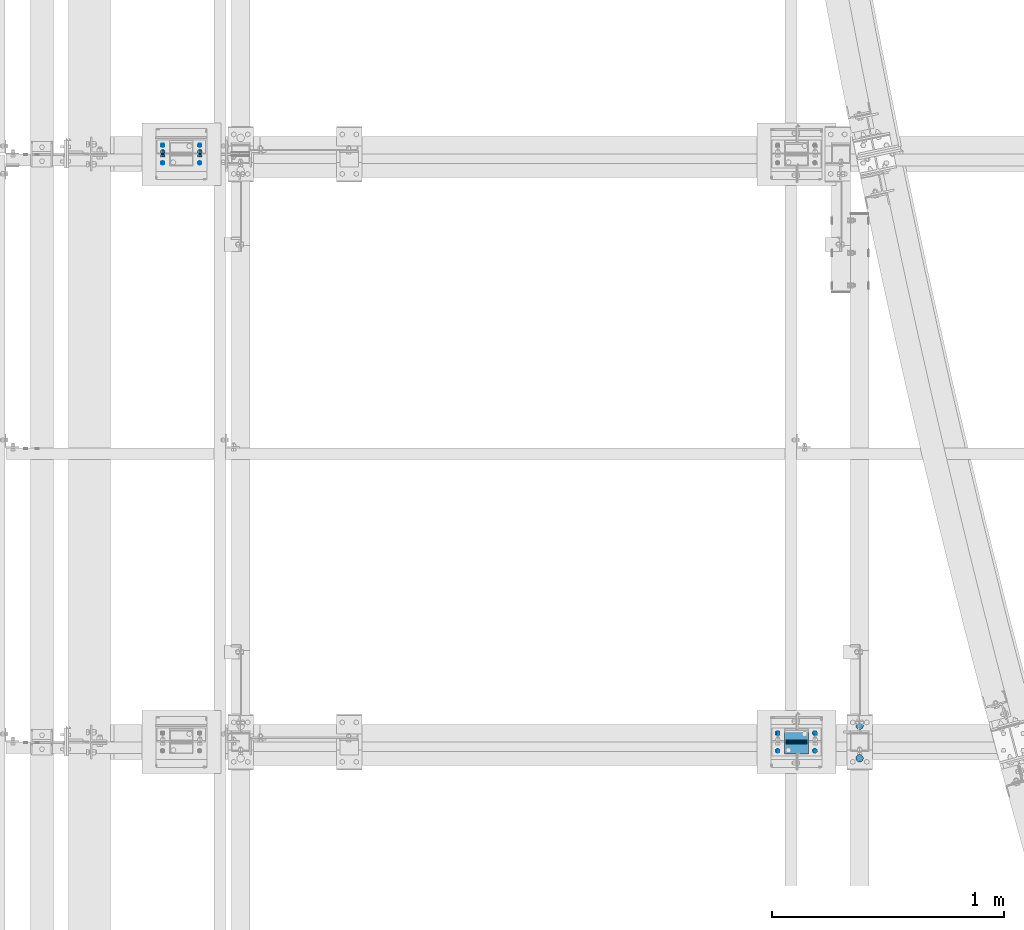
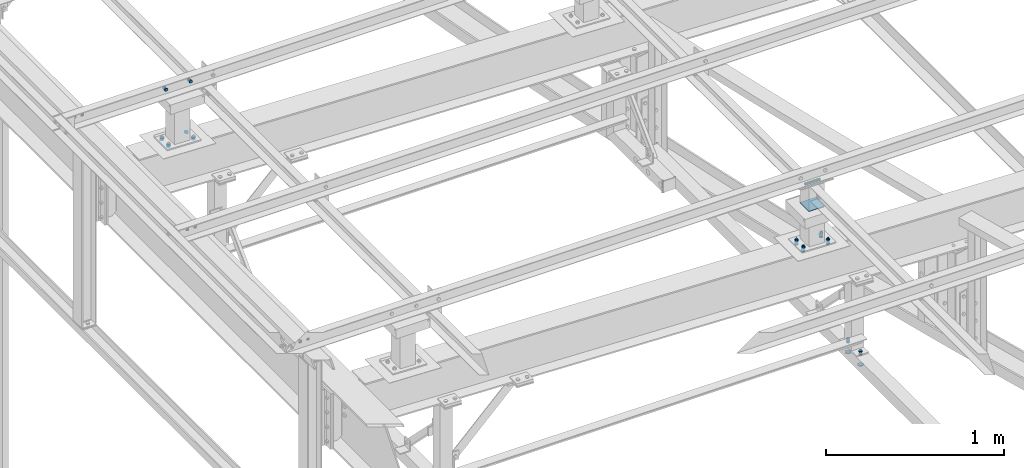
# One storey, part 62 of 3134: 8 mechanical fasteners, 5 elements without a shape of their own.
"""IFC2X3 building model written with IfcOpenShell, lengths in millimetres."""

import ifcopenshell
import ifcopenshell.guid

model = None  # the IFC model being written
_history = None  # IfcOwnerHistory: only IFC2X3 demands one
_inside = {}  # id of a spatial element -> (the spatial element, [elements in it])
_under = {}  # id of a project, library or spatial element -> (it, [spatial elements below it])
_declared = {}  # id of a project -> (the project, [libraries it declares])
_typed = {}  # id of a type object -> (the type object, [elements of that type])
_made_of = {}  # id of a material, layer set ... -> (it, [elements and type objects made of it])


def new_model(schema):
    """Start an empty IFC model of exactly this schema.

    Asked for "IFC4X3", IfcOpenShell would pick the latest addendum, in which some entities
    have other attributes; the version numbers below select the first issue.
    IFC2X3 requires an IfcOwnerHistory on every rooted entity: one is made here for all.
    """
    global model, _history
    if schema == "IFC4X3":
        model = ifcopenshell.file(schema_version=(4, 3, 0, 0))
    else:
        model = ifcopenshell.file(schema=schema)
    _inside.clear()
    _under.clear()
    _declared.clear()
    _typed.clear()
    _made_of.clear()
    _history = None
    if model.schema == "IFC2X3":
        org = make("IfcOrganization", Name="unknown")
        user = make(
            "IfcPersonAndOrganization",
            ThePerson=make("IfcPerson", FamilyName="unknown"),
            TheOrganization=org,
        )
        app = make(
            "IfcApplication",
            ApplicationDeveloper=org,
            Version="unknown",
            ApplicationFullName="unknown",
            ApplicationIdentifier="unknown",
        )
        _history = make(
            "IfcOwnerHistory",
            OwningUser=user,
            OwningApplication=app,
            ChangeAction="ADDED",
            CreationDate=0,
        )
    return model


def make(cls, **values):
    """One entity of the class cls with the attributes given. An attribute that is None is left unset."""
    return model.create_entity(
        cls, **{name: value for name, value in values.items() if value is not None}
    )


def rooted(cls, **values):
    """An entity with a GlobalId (a new one), such as an element, a storey or a relation."""
    return make(cls, GlobalId=ifcopenshell.guid.new(), OwnerHistory=_history, **values)


def si_unit(unit_type, name, prefix=None):
    """IfcSIUnit, for example si_unit("LENGTHUNIT", "METRE", prefix="MILLI")."""
    return make("IfcSIUnit", UnitType=unit_type, Prefix=prefix, Name=name)


def assignment(units):
    """IfcUnitAssignment: the units of a project."""
    return None if units is None else make("IfcUnitAssignment", Units=units)


def point(xyz):
    """IfcCartesianPoint."""
    return None if xyz is None else make("IfcCartesianPoint", Coordinates=xyz)


def direction(xyz):
    """IfcDirection."""
    return None if xyz is None else make("IfcDirection", DirectionRatios=xyz)


def frame(location, z_axis=None, x_axis=None):
    """IfcAxis2Placement3D, a coordinate frame: its origin and axes. An axis left out is left unset."""
    return make(
        "IfcAxis2Placement3D",
        Location=point(location),
        Axis=direction(z_axis),
        RefDirection=direction(x_axis),
    )


def origin_with_axes():
    """The frame at (0, 0, 0) with the z axis (0, 0, 1) and the x axis (1, 0, 0) written out."""
    return frame((0.0, 0.0, 0.0), z_axis=(0.0, 0.0, 1.0), x_axis=(1.0, 0.0, 0.0))


def place(relative_to, where):
    """IfcLocalPlacement: puts the frame where relative to a parent placement (None: the world)."""
    return make(
        "IfcLocalPlacement", PlacementRelTo=relative_to, RelativePlacement=where
    )


def context(
    kind, dimensions, precision=None, world=None, true_north=None, identifier=None
):
    """IfcGeometricRepresentationContext, for example the 3D "Model" context."""
    return make(
        "IfcGeometricRepresentationContext",
        ContextIdentifier=identifier,
        ContextType=kind,
        CoordinateSpaceDimension=dimensions,
        Precision=precision,
        WorldCoordinateSystem=world,
        TrueNorth=true_north,
    )


def subcontext(parent, identifier, kind, view, scale=None):
    """IfcGeometricRepresentationSubContext, for example "Body" below "Model"."""
    return make(
        "IfcGeometricRepresentationSubContext",
        ContextIdentifier=identifier,
        ContextType=kind,
        ParentContext=parent,
        TargetScale=scale,
        TargetView=view,
    )


def project(units=None, contexts=None):
    """IfcProject with its units and contexts."""
    return rooted(
        "IfcProject",
        Name="project",
        RepresentationContexts=contexts,
        UnitsInContext=assignment(units),
    )


def spatial(cls, under=None, at=None, **own):
    """A site, building, storey or space (cls), placed at a placement, below another one or the project."""
    s = rooted(cls, ObjectPlacement=at, **own)
    if under is not None:
        _under.setdefault(under.id(), (under, []))[1].append(s)
    return s


def faces_of(points, faces, orient=None, outer=None):
    """IfcFace entities. A face is a list of loops; a loop is a list of indices into points, from 0.

    orient and outer hold one flag for each loop. By default every Orientation is true, the
    first loop of a face is its IfcFaceOuterBound and the others are IfcFaceBound.
    """
    made = []
    for i, loops in enumerate(faces):
        bounds = []
        for j, loop in enumerate(loops):
            is_outer = j == 0 if outer is None else outer[i][j]
            bounds.append(
                make(
                    "IfcFaceOuterBound" if is_outer else "IfcFaceBound",
                    Bound=make("IfcPolyLoop", Polygon=[points[k] for k in loop]),
                    Orientation=True if orient is None else orient[i][j],
                )
            )
        made.append(make("IfcFace", Bounds=bounds))
    return made


def faceted_brep(points, faces, orient=None, outer=None, voids=None):
    """IfcFacetedBrep: a solid bounded by flat faces; with voids (closed shells), ...WithVoids."""
    shared = [point(p) for p in points]
    hull = make("IfcClosedShell", CfsFaces=faces_of(shared, faces, orient, outer))
    if voids is None:
        return make("IfcFacetedBrep", Outer=hull)
    return make(
        "IfcFacetedBrepWithVoids",
        Outer=hull,
        Voids=[
            make(cls, CfsFaces=faces_of(shared, fs, o, b)) for cls, fs, o, b in voids
        ],
    )


def shape(context_of_items, identifier, shape_type, items):
    """IfcShapeRepresentation: the items that make up one representation, for example the "Body"."""
    return make(
        "IfcShapeRepresentation",
        ContextOfItems=context_of_items,
        RepresentationIdentifier=identifier,
        RepresentationType=shape_type,
        Items=items,
    )


def source(mapping_origin, context_of_items, identifier, shape_type, items):
    """IfcRepresentationMap: a shape defined once, which mapped items show again and again."""
    return make(
        "IfcRepresentationMap",
        MappingOrigin=mapping_origin,
        MappedRepresentation=shape(context_of_items, identifier, shape_type, items),
    )


def transform(
    local_origin,
    x_axis=None,
    y_axis=None,
    z_axis=None,
    scale=None,
    scale2=None,
    scale3=None,
    uniform=True,
):
    """IfcCartesianTransformationOperator3D, or its non-uniform kind. x_axis, y_axis, z_axis: its Axis1, 2, 3."""
    if uniform:
        return make(
            "IfcCartesianTransformationOperator3D",
            Axis1=direction(x_axis),
            Axis2=direction(y_axis),
            LocalOrigin=point(local_origin),
            Scale=scale,
            Axis3=direction(z_axis),
        )
    return make(
        "IfcCartesianTransformationOperator3DnonUniform",
        Axis1=direction(x_axis),
        Axis2=direction(y_axis),
        LocalOrigin=point(local_origin),
        Scale=scale,
        Axis3=direction(z_axis),
        Scale2=scale2,
        Scale3=scale3,
    )


def mapped(mapping_source, mapping_target):
    """IfcMappedItem: shows the shape of a source again, moved by a transform."""
    return make(
        "IfcMappedItem", MappingSource=mapping_source, MappingTarget=mapping_target
    )


def material(Name=None, Category=None):
    """IfcMaterial."""
    return make("IfcMaterial", Name=Name, Category=Category)


def made_of(thing, what):
    """Note that an element or type object is made of a material, layer set ...; save() writes the relation."""
    if what is not None:
        _made_of.setdefault(what.id(), (what, []))[1].append(thing)
    return thing


def type_object(cls, material=None, **own):
    """A type object (cls), such as IfcWallType, which elements share."""
    return made_of(rooted(cls, **own), material)


def element(
    cls,
    number,
    at=None,
    inside=None,
    cuts=None,
    type_object=None,
    material=None,
    context=None,
    identifier="Body",
    shape_type=None,
    held_by="IfcProductDefinitionShape",
    body=None,
    shapes=None,
    **own,
):
    """One element of the class cls, such as IfcWall. Its Tag is "e" and its number.

    at: its placement. inside: the storey or other place that contains it. cuts: it is an
    opening in that element (IfcRelVoidsElement). A single representation is given by context,
    identifier, shape_type and body (its items); several are given by shapes. held_by: the class
    of the entity that holds the representations. save() writes the other relations.
    """
    e = rooted(cls, Tag="e%d" % number, ObjectPlacement=at, **own)
    if body is not None:
        shapes = [shape(context, identifier, shape_type, body)]
    if shapes is not None:
        e.Representation = make(held_by, Representations=shapes)
    if inside is not None:
        _inside.setdefault(inside.id(), (inside, []))[1].append(e)
    if cuts is not None:
        rooted(
            "IfcRelVoidsElement", RelatingBuildingElement=cuts, RelatedOpeningElement=e
        )
    if type_object is not None:
        _typed.setdefault(type_object.id(), (type_object, []))[1].append(e)
    return made_of(e, material)


def aggregate(whole, parts):
    """IfcRelAggregates: a whole, such as a stair, and the parts it consists of."""
    return rooted("IfcRelAggregates", RelatingObject=whole, RelatedObjects=parts)


def save(model, path):
    """Write the relations noted so far, then the file.

    IfcRelAggregates (storeys below a building ...), IfcRelContainedInSpatialStructure (elements
    in a storey), IfcRelDefinesByType, IfcRelAssociatesMaterial and IfcRelDeclares: one each for
    every whole, place, type object, material and project.
    """
    for whole, parts in _under.values():
        aggregate(whole, parts)
    for where, things in _inside.values():
        rooted(
            "IfcRelContainedInSpatialStructure",
            RelatedElements=things,
            RelatingStructure=where,
        )
    for kind, things in _typed.values():
        rooted("IfcRelDefinesByType", RelatedObjects=things, RelatingType=kind)
    for what, things in _made_of.values():
        rooted("IfcRelAssociatesMaterial", RelatedObjects=things, RelatingMaterial=what)
    for by, libraries in _declared.values():
        rooted("IfcRelDeclares", RelatingContext=by, RelatedDefinitions=libraries)
    model.write(path)


model = new_model("IFC2X3")

# Units and contexts
model_context = context("Model", 3, precision=1e-05, world=origin_with_axes())
body_context = subcontext(model_context, "Body", "Model", "MODEL_VIEW")
ifc_project = project(units=[si_unit("LENGTHUNIT", "METRE", prefix="MILLI"), si_unit("AREAUNIT", "SQUARE_METRE"), si_unit("VOLUMEUNIT", "CUBIC_METRE"), si_unit("MASSUNIT", "GRAM", prefix="KILO"), si_unit("TIMEUNIT", "SECOND"), si_unit("PLANEANGLEUNIT", "RADIAN"), si_unit("SOLIDANGLEUNIT", "STERADIAN"), si_unit("THERMODYNAMICTEMPERATUREUNIT", "DEGREE_CELSIUS"), si_unit("LUMINOUSINTENSITYUNIT", "LUMEN")], contexts=[model_context])

# Site, building, storey
site_placement = place(None, origin_with_axes())
site = spatial("IfcSite", under=ifc_project, at=site_placement, CompositionType="ELEMENT")
building_placement = place(site_placement, origin_with_axes())
building = spatial("IfcBuilding", under=site, at=building_placement, Name="Undefined", CompositionType="ELEMENT")
storey_placement = place(building_placement, origin_with_axes())
storey = spatial("IfcBuildingStorey", under=building, at=storey_placement, Name="Undefined", CompositionType="ELEMENT", Elevation=0.0)

# Assembly, mechanical fasteners
assembly_1_placement = place(storey_placement, origin_with_axes())
assembly_1 = element("IfcElementAssembly", 1, at=assembly_1_placement, inside=storey, AssemblyPlace="NOTDEFINED", PredefinedType="RIGID_FRAME")
ifc_material_1 = material(Name="8.8")
mechanical_fastener_type = type_object("IfcMechanicalFastenerType", Name="Bolt assembly")
shared_shape_1 = source(origin_with_axes(), body_context, "Body", "Brep", [
    faceted_brep([(16.5, -3.0, 0.0), (14.289419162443, -3.0, 8.25000000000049), (8.24999999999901, -3.0, 14.2894191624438), (-1.70995436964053e-12, -3.0, 16.5), (-8.25000000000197, -3.0, 14.2894191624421), (-14.2894191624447, -3.0, 8.24999999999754), (-16.5, -3.0, -3.41990873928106e-12), (-14.2894191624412, -3.0, -8.25000000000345), (-8.24999999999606, -3.0, -14.2894191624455), (5.11154442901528e-12, -3.0, -16.5), (8.25000000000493, -3.0, -14.2894191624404), (14.2894191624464, -3.0, -8.24999999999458), (14.2894191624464, 0.1, -8.24999999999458), (8.25000000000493, 0.1, -14.2894191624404), (5.11154442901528e-12, 0.1, -16.5), (-8.24999999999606, 0.1, -14.2894191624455), (-14.2894191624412, 0.1, -8.25000000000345), (-16.5, 0.1, -3.41990873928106e-12), (-14.2894191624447, 0.1, 8.24999999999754), (-8.25000000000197, 0.1, 14.2894191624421), (-1.70995436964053e-12, 0.1, 16.5), (8.24999999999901, 0.1, 14.2894191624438), (14.289419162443, 0.1, 8.25000000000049), (16.5, 0.1, 0.0)], [[[0, 1, 2, 3, 4, 5, 6, 7, 8, 9, 10, 11]], [[12, 13, 14, 15, 16, 17, 18, 19, 20, 21, 22, 23]], [[0, 23, 22, 1]], [[1, 22, 21, 2]], [[2, 21, 20, 3]], [[3, 20, 19, 4]], [[4, 19, 18, 5]], [[5, 18, 17, 6]], [[6, 17, 16, 7]], [[7, 16, 15, 8]], [[8, 15, 14, 9]], [[9, 14, 13, 10]], [[10, 13, 12, 11]], [[11, 12, 23, 0]]]),
])
mechanical_fastener_1_placement = place(assembly_1_placement, frame((3315.0, 22051.25, 3040.0), z_axis=(1.0, 0.0, 0.0), x_axis=(0.0, -1.0, 0.0)))
mechanical_fastener_1 = element("IfcMechanicalFastener", 2, at=mechanical_fastener_1_placement, type_object=mechanical_fastener_type, material=ifc_material_1, Name="Bolt assembly", NominalDiameter=30.0, NominalLength=3.0, context=body_context, shape_type="MappedRepresentation", body=[
    mapped(shared_shape_1, transform((0.0, 0.0, 0.0))),
    mapped(shared_shape_1, transform((140.0, 0.0, 0.0))),
])
shared_shape_2 = source(origin_with_axes(), body_context, "Body", "Brep", [
    faceted_brep([(10.9696551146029, -16.0, 0.0), (5.48482755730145, -16.0, 9.5), (-5.48482755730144, -16.0, 9.5), (-10.9696551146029, -16.0, 1.34339530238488e-15), (-5.48482755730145, -16.0, -9.5), (5.48482755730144, -16.0, -9.50000000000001), (5.48482755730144, -8.0, -9.50000000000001), (-5.48482755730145, -8.0, -9.5), (-10.9696551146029, -8.0, 1.34339530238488e-15), (-5.48482755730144, -8.0, 9.5), (5.48482755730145, -8.0, 9.5), (10.9696551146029, -8.0, 0.0), (6.0, -8.0, 0.0), (5.19615242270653, -8.0, 3.00000000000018), (2.99999999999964, -8.0, 5.19615242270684), (-6.21801588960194e-13, -8.0, 6.0), (-3.00000000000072, -8.0, 5.19615242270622), (-5.19615242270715, -8.0, 2.9999999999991), (-6.0, -8.0, -1.24360317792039e-12), (-5.19615242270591, -8.0, -3.00000000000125), (-2.99999999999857, -8.0, -5.19615242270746), (1.85874342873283e-12, -8.0, -6.0), (3.00000000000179, -8.0, -5.1961524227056), (5.19615242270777, -8.0, -2.99999999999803), (5.19615242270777, 17.0, -2.99999999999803), (3.00000000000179, 17.0, -5.1961524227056), (1.85874342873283e-12, 17.0, -6.0), (-2.99999999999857, 17.0, -5.19615242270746), (-5.19615242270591, 17.0, -3.00000000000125), (-6.0, 17.0, -1.24360317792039e-12), (-5.19615242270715, 17.0, 2.9999999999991), (-3.00000000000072, 17.0, 5.19615242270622), (-6.21801588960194e-13, 17.0, 6.0), (2.99999999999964, 17.0, 5.19615242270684), (5.19615242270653, 17.0, 3.00000000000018), (6.0, 17.0, 0.0), (10.9696551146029, 3.00000000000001, 0.0), (5.48482755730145, 3.00000000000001, 9.5), (-5.48482755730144, 3.00000000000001, 9.5), (-10.9696551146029, 3.00000000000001, 1.34339530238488e-15), (-5.48482755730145, 3.00000000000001, -9.5), (5.48482755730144, 3.00000000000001, -9.50000000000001), (5.48482755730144, 13.0, -9.50000000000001), (-5.48482755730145, 13.0, -9.5), (-10.9696551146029, 13.0, 1.34339530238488e-15), (-5.48482755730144, 13.0, 9.5), (5.48482755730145, 13.0, 9.5), (10.9696551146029, 13.0, 0.0)], [[[0, 1, 2, 3, 4, 5]], [[6, 7, 8, 9, 10, 11]], [[0, 11, 10, 1]], [[1, 10, 9, 2]], [[2, 9, 8, 3]], [[3, 8, 7, 4]], [[4, 7, 6, 5]], [[5, 6, 11, 0]], [[12, 13, 14, 15, 16, 17, 18, 19, 20, 21, 22, 23]], [[24, 25, 26, 27, 28, 29, 30, 31, 32, 33, 34, 35]], [[12, 35, 34, 13]], [[13, 34, 33, 14]], [[14, 33, 32, 15]], [[15, 32, 31, 16]], [[16, 31, 30, 17]], [[17, 30, 29, 18]], [[18, 29, 28, 19]], [[19, 28, 27, 20]], [[20, 27, 26, 21]], [[21, 26, 25, 22]], [[22, 25, 24, 23]], [[23, 24, 35, 12]], [[36, 37, 38, 39, 40, 41]], [[42, 43, 44, 45, 46, 47]], [[36, 47, 46, 37]], [[37, 46, 45, 38]], [[38, 45, 44, 39]], [[39, 44, 43, 40]], [[40, 43, 42, 41]], [[41, 42, 47, 36]]]),
    faceted_brep([(7.0, -7.9, 0.0), (6.06217782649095, -7.9, 3.50000000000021), (3.49999999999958, -7.9, 6.06217782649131), (-7.25435187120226e-13, -7.9, 7.0), (-3.50000000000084, -7.9, 6.06217782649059), (-6.06217782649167, -7.9, 3.49999999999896), (-7.0, -7.9, -1.45087037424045e-12), (-6.06217782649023, -7.9, -3.50000000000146), (-3.49999999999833, -7.9, -6.06217782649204), (2.1685340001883e-12, -7.9, -7.0), (3.50000000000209, -7.9, -6.06217782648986), (6.0621778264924, -7.9, -3.4999999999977), (6.0621778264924, 0.0999999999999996, -3.4999999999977), (3.50000000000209, 0.0999999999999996, -6.06217782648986), (2.1685340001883e-12, 0.0999999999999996, -7.0), (-3.49999999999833, 0.0999999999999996, -6.06217782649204), (-6.06217782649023, 0.0999999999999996, -3.50000000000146), (-7.0, 0.0999999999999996, -1.45087037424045e-12), (-6.06217782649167, 0.0999999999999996, 3.49999999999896), (-3.50000000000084, 0.0999999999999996, 6.06217782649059), (-7.25435187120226e-13, 0.0999999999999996, 7.0), (3.49999999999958, 0.0999999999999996, 6.06217782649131), (6.06217782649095, 0.0999999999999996, 3.50000000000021), (7.0, 0.0999999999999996, 0.0), (7.0, -0.1, 0.0), (6.06217782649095, -0.1, 3.50000000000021), (3.49999999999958, -0.1, 6.06217782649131), (-7.25435187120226e-13, -0.1, 7.0), (-3.50000000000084, -0.1, 6.06217782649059), (-6.06217782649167, -0.1, 3.49999999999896), (-7.0, -0.1, -1.45087037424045e-12), (-6.06217782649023, -0.1, -3.50000000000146), (-3.49999999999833, -0.1, -6.06217782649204), (2.1685340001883e-12, -0.1, -7.0), (3.50000000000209, -0.1, -6.06217782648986), (6.0621778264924, -0.1, -3.4999999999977), (6.0621778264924, 3.0, -3.4999999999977), (3.50000000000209, 3.0, -6.06217782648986), (2.1685340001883e-12, 3.0, -7.0), (-3.49999999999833, 3.0, -6.06217782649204), (-6.06217782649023, 3.0, -3.50000000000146), (-7.0, 3.0, -1.45087037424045e-12), (-6.06217782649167, 3.0, 3.49999999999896), (-3.50000000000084, 3.0, 6.06217782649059), (-7.25435187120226e-13, 3.0, 7.0), (3.49999999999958, 3.0, 6.06217782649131), (6.06217782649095, 3.0, 3.50000000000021), (7.0, 3.0, 0.0)], [[[0, 1, 2, 3, 4, 5, 6, 7, 8, 9, 10, 11]], [[12, 13, 14, 15, 16, 17, 18, 19, 20, 21, 22, 23]], [[0, 23, 22, 1]], [[1, 22, 21, 2]], [[2, 21, 20, 3]], [[3, 20, 19, 4]], [[4, 19, 18, 5]], [[5, 18, 17, 6]], [[6, 17, 16, 7]], [[7, 16, 15, 8]], [[8, 15, 14, 9]], [[9, 14, 13, 10]], [[10, 13, 12, 11]], [[11, 12, 23, 0]], [[24, 25, 26, 27, 28, 29, 30, 31, 32, 33, 34, 35]], [[36, 37, 38, 39, 40, 41, 42, 43, 44, 45, 46, 47]], [[24, 47, 46, 25]], [[25, 46, 45, 26]], [[26, 45, 44, 27]], [[27, 44, 43, 28]], [[28, 43, 42, 29]], [[29, 42, 41, 30]], [[30, 41, 40, 31]], [[31, 40, 39, 32]], [[32, 39, 38, 33]], [[33, 38, 37, 34]], [[34, 37, 36, 35]], [[35, 36, 47, 24]]]),
])
mechanical_fastener_2_placement = place(assembly_1_placement, frame((3315.0, 22051.25, 3120.0), z_axis=(1.0, 0.0, 0.0), x_axis=(0.0, -1.0, 0.0)))
mechanical_fastener_2 = element("IfcMechanicalFastener", 3, at=mechanical_fastener_2_placement, type_object=mechanical_fastener_type, material=ifc_material_1, Name="Bolt assembly", NominalDiameter=12.0, NominalLength=25.0, context=body_context, shape_type="MappedRepresentation", body=[
    mapped(shared_shape_2, transform((0.0, 0.0, 0.0))),
    mapped(shared_shape_2, transform((140.0, 0.0, 0.0))),
])
aggregate(assembly_1, [mechanical_fastener_2, mechanical_fastener_1])

# Assembly, mechanical fastener
assembly_2_placement = place(storey_placement, origin_with_axes())
assembly_2 = element("IfcElementAssembly", 4, at=assembly_2_placement, inside=storey, AssemblyPlace="NOTDEFINED", PredefinedType="RIGID_FRAME")
shared_shape_3 = source(origin_with_axes(), body_context, "Body", "Brep", [
    faceted_brep([(10.9696551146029, -4.1972538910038, 0.0), (5.48482755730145, -4.1972538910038, 9.5), (-5.48482755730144, -4.1972538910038, 9.5), (-10.9696551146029, -4.1972538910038, 1.34339530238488e-15), (-5.48482755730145, -4.1972538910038, -9.5), (5.48482755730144, -4.1972538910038, -9.50000000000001), (5.48482755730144, 3.8027461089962, -9.50000000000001), (-5.48482755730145, 3.8027461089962, -9.5), (-10.9696551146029, 3.8027461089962, 1.34339530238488e-15), (-5.48482755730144, 3.8027461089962, 9.5), (5.48482755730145, 3.8027461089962, 9.5), (10.9696551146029, 3.8027461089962, 0.0), (6.0, 3.8027461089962, 0.0), (5.19615242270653, 3.8027461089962, 3.00000000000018), (2.99999999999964, 3.8027461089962, 5.19615242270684), (-6.21801588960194e-13, 3.8027461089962, 6.0), (-3.00000000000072, 3.8027461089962, 5.19615242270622), (-5.19615242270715, 3.8027461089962, 2.9999999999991), (-6.0, 3.8027461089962, -1.24360317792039e-12), (-5.19615242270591, 3.8027461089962, -3.00000000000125), (-2.99999999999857, 3.8027461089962, -5.19615242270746), (1.85874342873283e-12, 3.8027461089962, -6.0), (3.00000000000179, 3.8027461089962, -5.1961524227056), (5.19615242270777, 3.8027461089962, -2.99999999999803), (5.19615242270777, 38.8027461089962, -2.99999999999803), (3.00000000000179, 38.8027461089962, -5.1961524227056), (1.85874342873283e-12, 38.8027461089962, -6.0), (-2.99999999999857, 38.8027461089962, -5.19615242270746), (-5.19615242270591, 38.8027461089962, -3.00000000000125), (-6.0, 38.8027461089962, -1.24360317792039e-12), (-5.19615242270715, 38.8027461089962, 2.9999999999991), (-3.00000000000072, 38.8027461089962, 5.19615242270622), (-6.21801588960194e-13, 38.8027461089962, 6.0), (2.99999999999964, 38.8027461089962, 5.19615242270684), (5.19615242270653, 38.8027461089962, 3.00000000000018), (6.0, 38.8027461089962, 0.0), (10.9696551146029, 23.0139082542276, 0.0), (5.48482755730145, 23.0139082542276, 9.5), (-5.48482755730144, 23.0139082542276, 9.5), (-10.9696551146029, 23.0139082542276, 1.34339530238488e-15), (-5.48482755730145, 23.0139082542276, -9.5), (5.48482755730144, 23.0139082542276, -9.50000000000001), (5.48482755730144, 33.0139082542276, -9.50000000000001), (-5.48482755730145, 33.0139082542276, -9.5), (-10.9696551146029, 33.0139082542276, 1.34339530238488e-15), (-5.48482755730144, 33.0139082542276, 9.5), (5.48482755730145, 33.0139082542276, 9.5), (10.9696551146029, 33.0139082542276, 0.0)], [[[0, 1, 2, 3, 4, 5]], [[6, 7, 8, 9, 10, 11]], [[0, 11, 10, 1]], [[1, 10, 9, 2]], [[2, 9, 8, 3]], [[3, 8, 7, 4]], [[4, 7, 6, 5]], [[5, 6, 11, 0]], [[12, 13, 14, 15, 16, 17, 18, 19, 20, 21, 22, 23]], [[24, 25, 26, 27, 28, 29, 30, 31, 32, 33, 34, 35]], [[12, 35, 34, 13]], [[13, 34, 33, 14]], [[14, 33, 32, 15]], [[15, 32, 31, 16]], [[16, 31, 30, 17]], [[17, 30, 29, 18]], [[18, 29, 28, 19]], [[19, 28, 27, 20]], [[20, 27, 26, 21]], [[21, 26, 25, 22]], [[22, 25, 24, 23]], [[23, 24, 35, 12]], [[36, 37, 38, 39, 40, 41]], [[42, 43, 44, 45, 46, 47]], [[36, 47, 46, 37]], [[37, 46, 45, 38]], [[38, 45, 44, 39]], [[39, 44, 43, 40]], [[40, 43, 42, 41]], [[41, 42, 47, 36]]]),
    faceted_brep([(7.0, 3.9027461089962, 0.0), (6.06217782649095, 3.9027461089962, 3.50000000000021), (3.49999999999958, 3.9027461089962, 6.06217782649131), (-7.25435187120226e-13, 3.9027461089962, 7.0), (-3.50000000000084, 3.9027461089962, 6.06217782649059), (-6.06217782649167, 3.9027461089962, 3.49999999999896), (-7.0, 3.9027461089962, -1.45087037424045e-12), (-6.06217782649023, 3.9027461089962, -3.50000000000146), (-3.49999999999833, 3.9027461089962, -6.06217782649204), (2.1685340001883e-12, 3.9027461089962, -7.0), (3.50000000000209, 3.9027461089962, -6.06217782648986), (6.0621778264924, 3.9027461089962, -3.4999999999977), (6.0621778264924, 13.1027459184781, -3.4999999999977), (3.50000000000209, 13.1027459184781, -6.06217782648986), (2.1685340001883e-12, 13.1027459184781, -7.0), (-3.49999999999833, 13.1027459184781, -6.06217782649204), (-6.06217782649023, 13.1027459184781, -3.50000000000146), (-7.0, 13.1027459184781, -1.45087037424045e-12), (-6.06217782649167, 13.1027459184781, 3.49999999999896), (-3.50000000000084, 13.1027459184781, 6.06217782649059), (-7.25435187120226e-13, 13.1027459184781, 7.0), (3.49999999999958, 13.1027459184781, 6.06217782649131), (6.06217782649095, 13.1027459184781, 3.50000000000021), (7.0, 13.1027459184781, 0.0), (7.0, 14.9139082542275, 0.0), (6.06217782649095, 14.9139082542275, 3.50000000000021), (3.49999999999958, 14.9139082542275, 6.06217782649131), (-7.25435187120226e-13, 14.9139082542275, 7.0), (-3.50000000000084, 14.9139082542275, 6.06217782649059), (-6.06217782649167, 14.9139082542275, 3.49999999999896), (-7.0, 14.9139082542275, -1.45087037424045e-12), (-6.06217782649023, 14.9139082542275, -3.50000000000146), (-3.49999999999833, 14.9139082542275, -6.06217782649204), (2.1685340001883e-12, 14.9139082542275, -7.0), (3.50000000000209, 14.9139082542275, -6.06217782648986), (6.0621778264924, 14.9139082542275, -3.4999999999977), (6.0621778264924, 23.0139082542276, -3.4999999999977), (3.50000000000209, 23.0139082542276, -6.06217782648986), (2.1685340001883e-12, 23.0139082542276, -7.0), (-3.49999999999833, 23.0139082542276, -6.06217782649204), (-6.06217782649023, 23.0139082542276, -3.50000000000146), (-7.0, 23.0139082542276, -1.45087037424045e-12), (-6.06217782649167, 23.0139082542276, 3.49999999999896), (-3.50000000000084, 23.0139082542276, 6.06217782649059), (-7.25435187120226e-13, 23.0139082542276, 7.0), (3.49999999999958, 23.0139082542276, 6.06217782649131), (6.06217782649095, 23.0139082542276, 3.50000000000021), (7.0, 23.0139082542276, 0.0)], [[[0, 1, 2, 3, 4, 5, 6, 7, 8, 9, 10, 11]], [[12, 13, 14, 15, 16, 17, 18, 19, 20, 21, 22, 23]], [[0, 23, 22, 1]], [[1, 22, 21, 2]], [[2, 21, 20, 3]], [[3, 20, 19, 4]], [[4, 19, 18, 5]], [[5, 18, 17, 6]], [[6, 17, 16, 7]], [[7, 16, 15, 8]], [[8, 15, 14, 9]], [[9, 14, 13, 10]], [[10, 13, 12, 11]], [[11, 12, 23, 0]], [[24, 25, 26, 27, 28, 29, 30, 31, 32, 33, 34, 35]], [[36, 37, 38, 39, 40, 41, 42, 43, 44, 45, 46, 47]], [[24, 47, 46, 25]], [[25, 46, 45, 26]], [[26, 45, 44, 27]], [[27, 44, 43, 28]], [[28, 43, 42, 29]], [[29, 42, 41, 30]], [[30, 41, 40, 31]], [[31, 40, 39, 32]], [[32, 39, 38, 33]], [[33, 38, 37, 34]], [[34, 37, 36, 35]], [[35, 36, 47, 24]]]),
])
mechanical_fastener_3_placement = place(assembly_2_placement, frame((3042.5231765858, 22019.2499999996, 3920.50000668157), z_axis=(-0.999387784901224, 0.0, 0.0349865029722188), x_axis=(0.0, -1.0, 0.0)))
mechanical_fastener_3 = element("IfcMechanicalFastener", 5, at=mechanical_fastener_3_placement, type_object=mechanical_fastener_type, material=ifc_material_1, Name="Bolt assembly", NominalDiameter=12.0, NominalLength=35.0, context=body_context, shape_type="MappedRepresentation", body=[
    mapped(shared_shape_3, transform((0.0, -5.32963895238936e-10, -79.9999999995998))),
    mapped(shared_shape_3, transform((76.0, -5.32963895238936e-10, -79.9999999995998))),
    mapped(shared_shape_3, transform((0.0, 5.3114490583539e-10, 79.9999999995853))),
    mapped(shared_shape_3, transform((76.0, 5.3114490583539e-10, 79.9999999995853))),
])

assembly_3_placement = place(storey_placement, origin_with_axes())
assembly_3 = element("IfcElementAssembly", 6, at=assembly_3_placement, inside=storey, AssemblyPlace="NOTDEFINED", PredefinedType="RIGID_FRAME")
shared_shape_4 = source(origin_with_axes(), body_context, "Body", "Brep", [
    faceted_brep([(7.0, 13.0000253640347, 0.0), (6.06217782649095, 13.0000253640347, 3.50000000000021), (3.49999999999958, 13.0000253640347, 6.06217782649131), (-7.25435187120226e-13, 13.0000253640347, 7.0), (-3.50000000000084, 13.0000253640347, 6.06217782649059), (-6.06217782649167, 13.0000253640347, 3.49999999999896), (-7.0, 13.0000253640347, -1.45087037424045e-12), (-6.06217782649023, 13.0000253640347, -3.50000000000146), (-3.49999999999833, 13.0000253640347, -6.06217782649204), (2.1685340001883e-12, 13.0000253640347, -7.0), (3.50000000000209, 13.0000253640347, -6.06217782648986), (6.0621778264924, 13.0000253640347, -3.4999999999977), (6.0621778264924, 15.0999999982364, -3.4999999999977), (3.50000000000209, 15.0999999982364, -6.06217782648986), (2.1685340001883e-12, 15.0999999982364, -7.0), (-3.49999999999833, 15.0999999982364, -6.06217782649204), (-6.06217782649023, 15.0999999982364, -3.50000000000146), (-7.0, 15.0999999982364, -1.45087037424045e-12), (-6.06217782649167, 15.0999999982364, 3.49999999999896), (-3.50000000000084, 15.0999999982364, 6.06217782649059), (-7.25435187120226e-13, 15.0999999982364, 7.0), (3.49999999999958, 15.0999999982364, 6.06217782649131), (6.06217782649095, 15.0999999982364, 3.50000000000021), (7.0, 15.0999999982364, 0.0)], [[[0, 1, 2, 3, 4, 5, 6, 7, 8, 9, 10, 11]], [[12, 13, 14, 15, 16, 17, 18, 19, 20, 21, 22, 23]], [[0, 23, 22, 1]], [[1, 22, 21, 2]], [[2, 21, 20, 3]], [[3, 20, 19, 4]], [[4, 19, 18, 5]], [[5, 18, 17, 6]], [[6, 17, 16, 7]], [[7, 16, 15, 8]], [[8, 15, 14, 9]], [[9, 14, 13, 10]], [[10, 13, 12, 11]], [[11, 12, 23, 0]]]),
])
mechanical_fastener_4_placement = place(assembly_3_placement, frame((3042.5231765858, 22019.2499999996, 3920.50000668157), z_axis=(-0.999387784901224, 0.0, 0.0349865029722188), x_axis=(0.0, -1.0, 0.0)))
mechanical_fastener_4 = element("IfcMechanicalFastener", 7, at=mechanical_fastener_4_placement, type_object=mechanical_fastener_type, material=ifc_material_1, Name="Bolt assembly", NominalDiameter=12.0, NominalLength=2.0, context=body_context, shape_type="MappedRepresentation", body=[
    mapped(shared_shape_4, transform((0.0, -5.32963895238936e-10, -79.9999999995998))),
    mapped(shared_shape_4, transform((76.0, -5.32963895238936e-10, -79.9999999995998))),
    mapped(shared_shape_4, transform((0.0, 5.3114490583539e-10, 79.9999999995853))),
    mapped(shared_shape_4, transform((76.0, 5.3114490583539e-10, 79.9999999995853))),
])
aggregate(assembly_3, [mechanical_fastener_4])

assembly_4_placement = place(storey_placement, origin_with_axes())
assembly_4 = element("IfcElementAssembly", 8, at=assembly_4_placement, inside=storey, AssemblyPlace="NOTDEFINED", PredefinedType="RIGID_FRAME")
mechanical_fastener_5_placement = place(assembly_4_placement, frame((394.193176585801, 24550.4999999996, 4013.19000668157), z_axis=(-0.999387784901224, 0.0, 0.0349865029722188), x_axis=(0.0, -1.0, 0.0)))
mechanical_fastener_5 = element("IfcMechanicalFastener", 9, at=mechanical_fastener_5_placement, type_object=mechanical_fastener_type, material=ifc_material_1, Name="Bolt assembly", NominalDiameter=12.0, NominalLength=2.0, context=body_context, shape_type="MappedRepresentation", body=[
    mapped(shared_shape_4, transform((0.0, -5.32963895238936e-10, -79.9999999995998))),
    mapped(shared_shape_4, transform((76.0, -5.32963895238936e-10, -79.9999999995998))),
    mapped(shared_shape_4, transform((0.0, 5.3114490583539e-10, 79.9999999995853))),
    mapped(shared_shape_4, transform((76.0, 5.3114490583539e-10, 79.9999999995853))),
])
aggregate(assembly_4, [mechanical_fastener_5])

# Mechanical fastener
shared_shape_5 = source(origin_with_axes(), body_context, "Body", "Brep", [
    faceted_brep([(9.0, -50.0, 0.0), (7.79422863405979, -50.0, 4.50000000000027), (4.49999999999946, -50.0, 7.79422863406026), (-9.3270238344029e-13, -50.0, 9.0), (-4.50000000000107, -50.0, 7.79422863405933), (-7.79422863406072, -50.0, 4.49999999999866), (-9.0, -50.0, -1.86540476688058e-12), (-7.79422863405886, -50.0, -4.50000000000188), (-4.49999999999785, -50.0, -7.79422863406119), (2.78811514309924e-12, -50.0, -9.0), (4.50000000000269, -50.0, -7.7942286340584), (7.79422863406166, -50.0, -4.49999999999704), (7.79422863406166, 50.1, -4.49999999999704), (4.50000000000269, 50.1, -7.7942286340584), (2.78811514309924e-12, 50.1, -9.0), (-4.49999999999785, 50.1, -7.79422863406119), (-7.79422863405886, 50.1, -4.50000000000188), (-9.0, 50.1, -1.86540476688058e-12), (-7.79422863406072, 50.1, 4.49999999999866), (-4.50000000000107, 50.1, 7.79422863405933), (-9.3270238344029e-13, 50.1, 9.0), (4.49999999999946, 50.1, 7.79422863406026), (7.79422863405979, 50.1, 4.50000000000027), (9.0, 50.1, 0.0)], [[[0, 1, 2, 3, 4, 5, 6, 7, 8, 9, 10, 11]], [[12, 13, 14, 15, 16, 17, 18, 19, 20, 21, 22, 23]], [[0, 23, 22, 1]], [[1, 22, 21, 2]], [[2, 21, 20, 3]], [[3, 20, 19, 4]], [[4, 19, 18, 5]], [[5, 18, 17, 6]], [[6, 17, 16, 7]], [[7, 16, 15, 8]], [[8, 15, 14, 9]], [[9, 14, 13, 10]], [[10, 13, 12, 11]], [[11, 12, 23, 0]]]),
])
mechanical_fastener_6_placement = place(assembly_2_placement, frame((3043.33, 21981.25, 4345.0), z_axis=(0.0, 1.0, 0.0), x_axis=(0.0, 0.0, 1.0)))
mechanical_fastener_6 = element("IfcMechanicalFastener", 10, at=mechanical_fastener_6_placement, type_object=mechanical_fastener_type, material=ifc_material_1, Name="Bolt assembly", NominalDiameter=16.0, NominalLength=100.0, context=body_context, shape_type="MappedRepresentation", body=[
    mapped(shared_shape_5, transform((0.0, 0.0, 0.0))),
])

ifc_material_2 = material(Name="6.8")
shared_shape_6 = source(origin_with_axes(), body_context, "Body", "Brep", [
    faceted_brep([(51.5, 1.36424205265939e-12, 50.0), (51.3858192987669, 1.36424205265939e-12, 50.5740251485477), (51.0606601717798, 1.36424205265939e-12, 51.0606601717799), (50.5740251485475, 1.36424205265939e-12, 51.385819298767), (-50.0000000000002, 1.36424205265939e-12, 51.5), (-50.7500000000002, 1.36424205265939e-12, 51.2990381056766), (-51.2990381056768, 1.36424205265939e-12, 50.7499999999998), (-51.5, 1.36424205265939e-12, 49.9999999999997), (-51.5, 1.36424205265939e-12, -50.0000000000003), (-51.2990381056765, 1.36424205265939e-12, -50.7500000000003), (-50.7499999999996, 1.36424205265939e-12, -51.2990381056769), (-49.9999999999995, 1.36424205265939e-12, -51.5), (50.0000000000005, 1.36424205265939e-12, -51.5), (50.7500000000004, 1.36424205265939e-12, -51.2990381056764), (51.2990381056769, 1.36424205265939e-12, -50.7499999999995), (51.5, 1.36424205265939e-12, -49.9999999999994), (51.5, 5.10000000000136, -49.9999999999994), (51.2990381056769, 5.10000000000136, -50.7499999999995), (50.7500000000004, 5.10000000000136, -51.2990381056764), (50.0000000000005, 5.10000000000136, -51.5), (-49.9999999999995, 5.10000000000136, -51.5), (-50.7499999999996, 5.10000000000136, -51.2990381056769), (-51.2990381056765, 5.10000000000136, -50.7500000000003), (-51.5, 5.10000000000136, -50.0000000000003), (-51.5, 5.10000000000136, 49.9999999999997), (-51.2990381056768, 5.10000000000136, 50.7499999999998), (-50.7500000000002, 5.10000000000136, 51.2990381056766), (-50.0000000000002, 5.10000000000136, 51.5), (50.5740251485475, 5.10000000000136, 51.385819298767), (51.0606601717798, 5.10000000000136, 51.0606601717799), (51.3858192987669, 5.10000000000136, 50.5740251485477), (51.5, 5.10000000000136, 50.0)], [[[0, 1, 2, 3, 4, 5, 6, 7, 8, 9, 10, 11, 12, 13, 14, 15]], [[16, 17, 18, 19, 20, 21, 22, 23, 24, 25, 26, 27, 28, 29, 30, 31]], [[0, 31, 30, 1]], [[1, 30, 29, 2]], [[2, 29, 28, 3]], [[3, 28, 27, 4]], [[4, 27, 26, 5]], [[5, 26, 25, 6]], [[6, 25, 24, 7]], [[7, 24, 23, 8]], [[8, 23, 22, 9]], [[9, 22, 21, 10]], [[10, 21, 20, 11]], [[11, 20, 19, 12]], [[12, 19, 18, 13]], [[13, 18, 17, 14]], [[14, 17, 16, 15]], [[15, 16, 31, 0]]]),
])
mechanical_fastener_7_placement = place(assembly_2_placement, frame((3043.33, 21981.25, 4190.29), z_axis=(0.0, -1.0, 0.0), x_axis=(-1.0, 0.0, 0.0)))
mechanical_fastener_7 = element("IfcMechanicalFastener", 11, at=mechanical_fastener_7_placement, type_object=mechanical_fastener_type, material=ifc_material_2, Name="Bolt assembly", NominalDiameter=10.0, NominalLength=5.0, context=body_context, shape_type="MappedRepresentation", body=[
    mapped(shared_shape_6, transform((0.0, 0.0, 0.0))),
])

aggregate(assembly_2, [mechanical_fastener_3, mechanical_fastener_7, mechanical_fastener_6])

# Assembly, mechanical fastener
assembly_5_placement = place(storey_placement, origin_with_axes())
assembly_5 = element("IfcElementAssembly", 12, at=assembly_5_placement, inside=storey, AssemblyPlace="NOTDEFINED", PredefinedType="RIGID_FRAME")
shared_shape_7 = source(origin_with_axes(), body_context, "Body", "Brep", [
    faceted_brep([(10.9696551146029, -12.0, 0.0), (5.48482755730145, -12.0, 9.5), (-5.48482755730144, -12.0, 9.5), (-10.9696551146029, -12.0, 1.34339530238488e-15), (-5.48482755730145, -12.0, -9.5), (5.48482755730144, -12.0, -9.50000000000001), (5.48482755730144, -4.0, -9.50000000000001), (-5.48482755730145, -4.0, -9.5), (-10.9696551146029, -4.0, 1.34339530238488e-15), (-5.48482755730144, -4.0, 9.5), (5.48482755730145, -4.0, 9.5), (10.9696551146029, -4.0, 0.0), (6.0, -4.0, 0.0), (5.19615242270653, -4.0, 3.00000000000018), (2.99999999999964, -4.0, 5.19615242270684), (-6.21801588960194e-13, -4.0, 6.0), (-3.00000000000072, -4.0, 5.19615242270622), (-5.19615242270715, -4.0, 2.9999999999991), (-6.0, -4.0, -1.24360317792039e-12), (-5.19615242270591, -4.0, -3.00000000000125), (-2.99999999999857, -4.0, -5.19615242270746), (1.85874342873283e-12, -4.0, -6.0), (3.00000000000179, -4.0, -5.1961524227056), (5.19615242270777, -4.0, -2.99999999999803), (5.19615242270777, 21.0, -2.99999999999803), (3.00000000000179, 21.0, -5.1961524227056), (1.85874342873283e-12, 21.0, -6.0), (-2.99999999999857, 21.0, -5.19615242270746), (-5.19615242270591, 21.0, -3.00000000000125), (-6.0, 21.0, -1.24360317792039e-12), (-5.19615242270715, 21.0, 2.9999999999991), (-3.00000000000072, 21.0, 5.19615242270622), (-6.21801588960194e-13, 21.0, 6.0), (2.99999999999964, 21.0, 5.19615242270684), (5.19615242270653, 21.0, 3.00000000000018), (6.0, 21.0, 0.0), (10.9696551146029, 6.00000000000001, 0.0), (5.48482755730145, 6.00000000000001, 9.5), (-5.48482755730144, 6.00000000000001, 9.5), (-10.9696551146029, 6.00000000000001, 1.34339530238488e-15), (-5.48482755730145, 6.00000000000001, -9.5), (5.48482755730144, 6.00000000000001, -9.50000000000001), (5.48482755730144, 16.0, -9.50000000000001), (-5.48482755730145, 16.0, -9.5), (-10.9696551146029, 16.0, 1.34339530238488e-15), (-5.48482755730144, 16.0, 9.5), (5.48482755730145, 16.0, 9.5), (10.9696551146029, 16.0, 0.0)], [[[0, 1, 2, 3, 4, 5]], [[6, 7, 8, 9, 10, 11]], [[0, 11, 10, 1]], [[1, 10, 9, 2]], [[2, 9, 8, 3]], [[3, 8, 7, 4]], [[4, 7, 6, 5]], [[5, 6, 11, 0]], [[12, 13, 14, 15, 16, 17, 18, 19, 20, 21, 22, 23]], [[24, 25, 26, 27, 28, 29, 30, 31, 32, 33, 34, 35]], [[12, 35, 34, 13]], [[13, 34, 33, 14]], [[14, 33, 32, 15]], [[15, 32, 31, 16]], [[16, 31, 30, 17]], [[17, 30, 29, 18]], [[18, 29, 28, 19]], [[19, 28, 27, 20]], [[20, 27, 26, 21]], [[21, 26, 25, 22]], [[22, 25, 24, 23]], [[23, 24, 35, 12]], [[36, 37, 38, 39, 40, 41]], [[42, 43, 44, 45, 46, 47]], [[36, 47, 46, 37]], [[37, 46, 45, 38]], [[38, 45, 44, 39]], [[39, 44, 43, 40]], [[40, 43, 42, 41]], [[41, 42, 47, 36]]]),
    faceted_brep([(7.0, -3.9, 0.0), (6.06217782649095, -3.9, 3.50000000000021), (3.49999999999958, -3.9, 6.06217782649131), (-7.25435187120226e-13, -3.9, 7.0), (-3.50000000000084, -3.9, 6.06217782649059), (-6.06217782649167, -3.9, 3.49999999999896), (-7.0, -3.9, -1.45087037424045e-12), (-6.06217782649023, -3.9, -3.50000000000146), (-3.49999999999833, -3.9, -6.06217782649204), (2.1685340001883e-12, -3.9, -7.0), (3.50000000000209, -3.9, -6.06217782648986), (6.0621778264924, -3.9, -3.4999999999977), (6.0621778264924, 0.0999999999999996, -3.4999999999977), (3.50000000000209, 0.0999999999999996, -6.06217782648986), (2.1685340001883e-12, 0.0999999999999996, -7.0), (-3.49999999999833, 0.0999999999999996, -6.06217782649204), (-6.06217782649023, 0.0999999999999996, -3.50000000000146), (-7.0, 0.0999999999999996, -1.45087037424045e-12), (-6.06217782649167, 0.0999999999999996, 3.49999999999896), (-3.50000000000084, 0.0999999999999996, 6.06217782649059), (-7.25435187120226e-13, 0.0999999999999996, 7.0), (3.49999999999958, 0.0999999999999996, 6.06217782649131), (6.06217782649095, 0.0999999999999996, 3.50000000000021), (7.0, 0.0999999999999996, 0.0), (7.0, -0.1, 0.0), (6.06217782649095, -0.1, 3.50000000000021), (3.49999999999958, -0.1, 6.06217782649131), (-7.25435187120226e-13, -0.1, 7.0), (-3.50000000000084, -0.1, 6.06217782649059), (-6.06217782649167, -0.1, 3.49999999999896), (-7.0, -0.1, -1.45087037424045e-12), (-6.06217782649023, -0.1, -3.50000000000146), (-3.49999999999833, -0.1, -6.06217782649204), (2.1685340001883e-12, -0.1, -7.0), (3.50000000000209, -0.1, -6.06217782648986), (6.0621778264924, -0.1, -3.4999999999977), (6.0621778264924, 6.00000000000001, -3.4999999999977), (3.50000000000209, 6.00000000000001, -6.06217782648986), (2.1685340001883e-12, 6.00000000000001, -7.0), (-3.49999999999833, 6.00000000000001, -6.06217782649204), (-6.06217782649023, 6.00000000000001, -3.50000000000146), (-7.0, 6.00000000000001, -1.45087037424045e-12), (-6.06217782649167, 6.00000000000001, 3.49999999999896), (-3.50000000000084, 6.00000000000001, 6.06217782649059), (-7.25435187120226e-13, 6.00000000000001, 7.0), (3.49999999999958, 6.00000000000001, 6.06217782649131), (6.06217782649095, 6.00000000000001, 3.50000000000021), (7.0, 6.00000000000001, 0.0)], [[[0, 1, 2, 3, 4, 5, 6, 7, 8, 9, 10, 11]], [[12, 13, 14, 15, 16, 17, 18, 19, 20, 21, 22, 23]], [[0, 23, 22, 1]], [[1, 22, 21, 2]], [[2, 21, 20, 3]], [[3, 20, 19, 4]], [[4, 19, 18, 5]], [[5, 18, 17, 6]], [[6, 17, 16, 7]], [[7, 16, 15, 8]], [[8, 15, 14, 9]], [[9, 14, 13, 10]], [[10, 13, 12, 11]], [[11, 12, 23, 0]], [[24, 25, 26, 27, 28, 29, 30, 31, 32, 33, 34, 35]], [[36, 37, 38, 39, 40, 41, 42, 43, 44, 45, 46, 47]], [[24, 47, 46, 25]], [[25, 46, 45, 26]], [[26, 45, 44, 27]], [[27, 44, 43, 28]], [[28, 43, 42, 29]], [[29, 42, 41, 30]], [[30, 41, 40, 31]], [[31, 40, 39, 32]], [[32, 39, 38, 33]], [[33, 38, 37, 34]], [[34, 37, 36, 35]], [[35, 36, 47, 24]]]),
])
mechanical_fastener_8_placement = place(assembly_5_placement, frame((394.999950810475, 24512.499683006, 4400.0), z_axis=(1.0, 0.0, 0.0), x_axis=(0.0, 0.0, -1.0)))
mechanical_fastener_8 = element("IfcMechanicalFastener", 13, at=mechanical_fastener_8_placement, type_object=mechanical_fastener_type, material=ifc_material_1, Name="Bolt assembly", NominalDiameter=12.0, NominalLength=25.0, context=body_context, shape_type="MappedRepresentation", body=[
    mapped(shared_shape_7, transform((0.0, -5.32963895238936e-10, -79.9999999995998))),
    mapped(shared_shape_7, transform((0.0, 5.3114490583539e-10, 79.9999999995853))),
])
aggregate(assembly_5, [mechanical_fastener_8])

save(model, "model.ifc")
